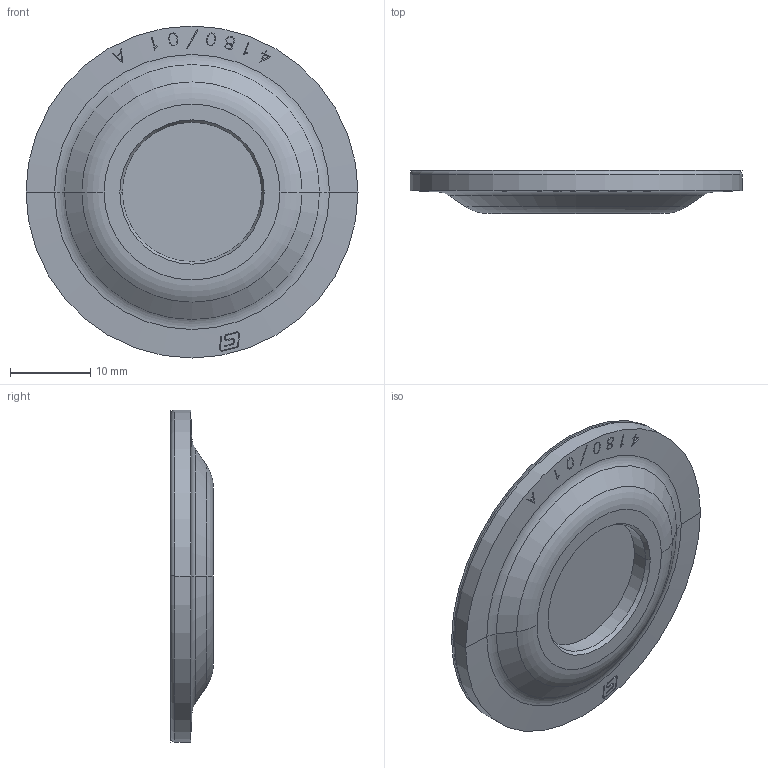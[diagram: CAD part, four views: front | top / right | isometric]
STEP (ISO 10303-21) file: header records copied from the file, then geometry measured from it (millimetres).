
FILE_DESCRIPTION((''),'2;1');
FILE_NAME('4180-713-1601-A','2025-04-25T15:16:57',('Rwolski'),(''),'CREO PARAMETRIC BY PTC INC, 2022364','CREO PARAMETRIC BY PTC INC, 2022364','');
FILE_SCHEMA(('CONFIG_CONTROL_DESIGN'));
Length unit declared in the file: millimetre
Products named in the file (1): 4180-713-1601-A
Bounding box: 41.5 x 5.35 x 41.5 mm (x, y, z)
Volume: 2912.6 mm3; surface area: 4197.5 mm2
Topology: 1 solids, 2 shells, 244 faces, 654 edges, 428 vertices
Faces by surface type: plane 185, cone 31, extrusion 14, torus 10, cylinder 4
Entity records: 8621 total; most frequent: CARTESIAN_POINT 3212, ORIENTED_EDGE 1306, DIRECTION 784, EDGE_CURVE 654, VERTEX_POINT 428, B_SPLINE_CURVE_WITH_KNOTS 406, AXIS2_PLACEMENT_3D 277, EDGE_LOOP 261
